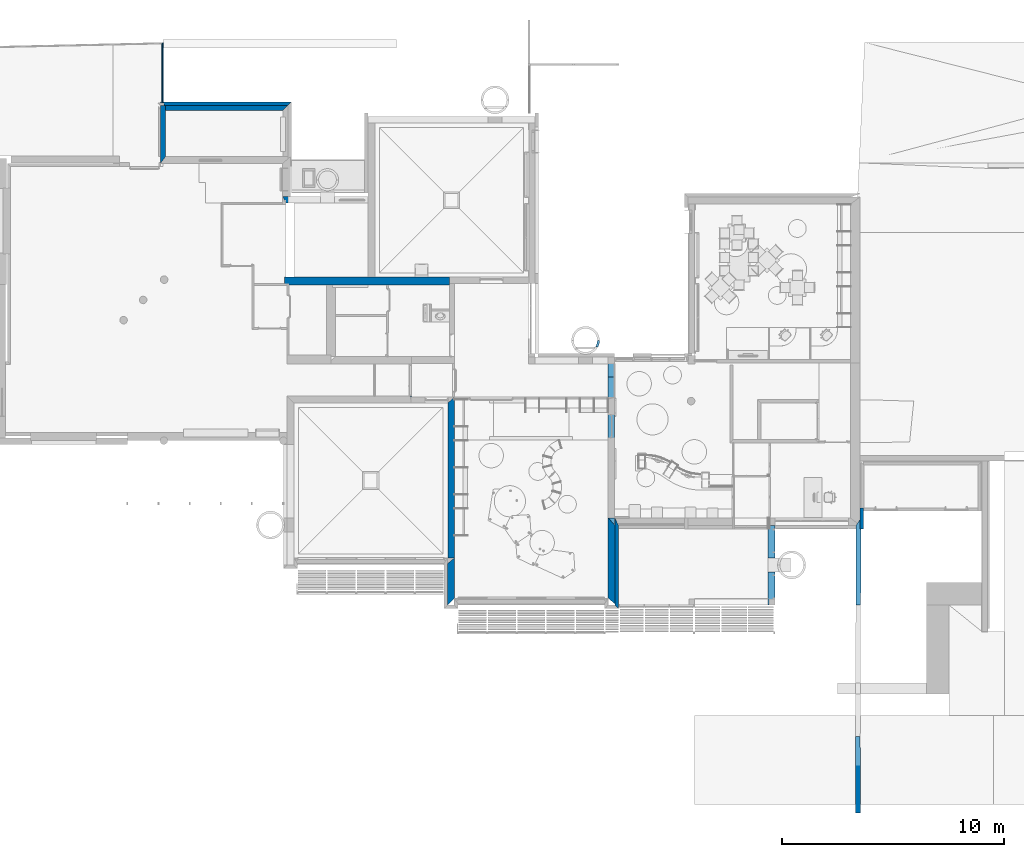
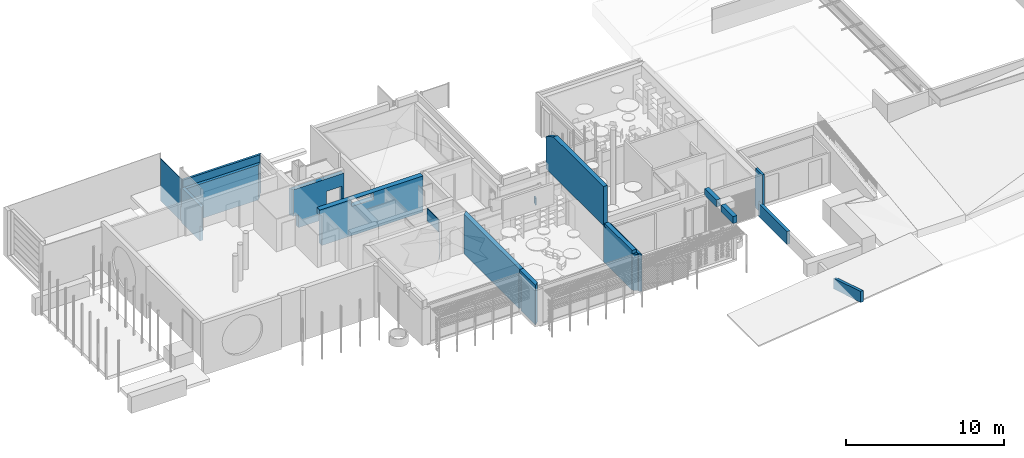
# One storey, part 28 of 64: 17 walls.
"""IFC2X3 building model written with IfcOpenShell, lengths in metres."""

from ifc_helpers import new_model, entity, si_unit, converted_unit, derived_unit, direction, frame, frame_2d, origin, place, context, subcontext, project, spatial, polyline, circle_curve, parameter, trimmed, segment, composite_curve, outline, extrude, faceted_brep, material, layer, layer_set, layer_usage, type_object, element, save


model = new_model("IFC2X3")

# Units and contexts
model_context = context("Model", 3, precision=1e-05, world=origin(), true_north=direction((6.123031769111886e-17, 1.0)))
body_context = subcontext(model_context, "Body", "Model", "MODEL_VIEW")
ifc_project = project(units=[si_unit("LENGTHUNIT", "METRE"), si_unit("AREAUNIT", "SQUARE_METRE"), si_unit("VOLUMEUNIT", "CUBIC_METRE"), converted_unit("PLANEANGLEUNIT", "DEGREE", entity("IfcRatioMeasure", 0.017453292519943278), si_unit("PLANEANGLEUNIT", "RADIAN"), dimensions=[0, 0, 0, 0, 0, 0, 0]), si_unit("MASSUNIT", "GRAM", prefix="KILO"), derived_unit("MASSDENSITYUNIT", [(si_unit("MASSUNIT", "GRAM", prefix="KILO"), 1), (si_unit("LENGTHUNIT", "METRE"), -3)]), derived_unit("MOMENTOFINERTIAUNIT", [(si_unit("LENGTHUNIT", "METRE"), 4)]), si_unit("TIMEUNIT", "SECOND"), si_unit("FREQUENCYUNIT", "HERTZ"), si_unit("THERMODYNAMICTEMPERATUREUNIT", "DEGREE_CELSIUS"), derived_unit("THERMALTRANSMITTANCEUNIT", [(si_unit("MASSUNIT", "GRAM", prefix="KILO"), 1), (si_unit("THERMODYNAMICTEMPERATUREUNIT", "KELVIN"), -1), (si_unit("TIMEUNIT", "SECOND"), -3)]), derived_unit("THERMALCONDUCTANCEUNIT", [(si_unit("MASSUNIT", "GRAM", prefix="KILO"), 1), (si_unit("LENGTHUNIT", "METRE"), 1), (si_unit("THERMODYNAMICTEMPERATUREUNIT", "KELVIN"), -1), (si_unit("TIMEUNIT", "SECOND"), -3)]), derived_unit("VOLUMETRICFLOWRATEUNIT", [(si_unit("LENGTHUNIT", "METRE"), 3), (si_unit("TIMEUNIT", "SECOND"), -1)]), derived_unit("MASSFLOWRATEUNIT", [(si_unit("MASSUNIT", "GRAM", prefix="KILO"), 1), (si_unit("TIMEUNIT", "SECOND"), -1)]), derived_unit("ROTATIONALFREQUENCYUNIT", [(si_unit("TIMEUNIT", "SECOND"), -1)]), si_unit("ELECTRICCURRENTUNIT", "AMPERE"), si_unit("ELECTRICVOLTAGEUNIT", "VOLT"), si_unit("POWERUNIT", "WATT"), si_unit("FORCEUNIT", "NEWTON", prefix="KILO"), si_unit("ILLUMINANCEUNIT", "LUX"), si_unit("LUMINOUSFLUXUNIT", "LUMEN"), si_unit("LUMINOUSINTENSITYUNIT", "CANDELA"), derived_unit("USERDEFINED", [(si_unit("MASSUNIT", "GRAM", prefix="KILO"), -1), (si_unit("LENGTHUNIT", "METRE"), -2), (si_unit("TIMEUNIT", "SECOND"), 3), (si_unit("LUMINOUSFLUXUNIT", "LUMEN"), 1)]), derived_unit("USERDEFINED", [(si_unit("MASSUNIT", "GRAM", prefix="KILO"), 1), (si_unit("LENGTHUNIT", "METRE"), 3), (si_unit("TIMEUNIT", "SECOND"), -3), (si_unit("ELECTRICCURRENTUNIT", "AMPERE"), -2)]), derived_unit("USERDEFINED", [(si_unit("LENGTHUNIT", "METRE"), 2), (si_unit("TIMEUNIT", "SECOND"), -2)]), derived_unit("SOUNDPOWERUNIT", [(si_unit("MASSUNIT", "GRAM", prefix="KILO"), 1), (si_unit("LENGTHUNIT", "METRE"), 2), (si_unit("TIMEUNIT", "SECOND"), -3)]), derived_unit("SOUNDPRESSUREUNIT", [(si_unit("MASSUNIT", "GRAM", prefix="KILO"), 1), (si_unit("LENGTHUNIT", "METRE"), -1), (si_unit("TIMEUNIT", "SECOND"), -2)]), derived_unit("LINEARVELOCITYUNIT", [(si_unit("LENGTHUNIT", "METRE"), 1), (si_unit("TIMEUNIT", "SECOND"), -1)]), si_unit("PRESSUREUNIT", "PASCAL"), derived_unit("USERDEFINED", [(si_unit("LENGTHUNIT", "METRE"), -2), (si_unit("MASSUNIT", "GRAM", prefix="KILO"), 1), (si_unit("TIMEUNIT", "SECOND"), -2)]), derived_unit("LINEARFORCEUNIT", [(si_unit("MASSUNIT", "GRAM", prefix="KILO"), 1), (si_unit("LENGTHUNIT", "METRE"), 1), (si_unit("TIMEUNIT", "SECOND"), -2), (si_unit("LENGTHUNIT", "METRE"), -1)]), derived_unit("PLANARFORCEUNIT", [(si_unit("MASSUNIT", "GRAM", prefix="KILO"), 1), (si_unit("LENGTHUNIT", "METRE"), 1), (si_unit("TIMEUNIT", "SECOND"), -2), (si_unit("LENGTHUNIT", "METRE"), -2)]), derived_unit("SPECIFICHEATCAPACITYUNIT", [(si_unit("LENGTHUNIT", "METRE"), 2), (si_unit("TIMEUNIT", "SECOND"), -2), (si_unit("THERMODYNAMICTEMPERATUREUNIT", "KELVIN"), -1)]), derived_unit("VAPORPERMEABILITYUNIT", [(si_unit("TIMEUNIT", "SECOND"), 1), (si_unit("LENGTHUNIT", "METRE"), -1)]), derived_unit("DYNAMICVISCOSITYUNIT", [(si_unit("MASSUNIT", "GRAM", prefix="KILO"), 1), (si_unit("LENGTHUNIT", "METRE"), -1), (si_unit("TIMEUNIT", "SECOND"), -1)]), derived_unit("THERMALEXPANSIONCOEFFICIENTUNIT", [(si_unit("THERMODYNAMICTEMPERATUREUNIT", "KELVIN"), -1)])], contexts=[model_context])

# Site, building, storey
site_placement = place(None, origin())
site = spatial("IfcSite", under=ifc_project, at=site_placement, Name="Default", CompositionType="ELEMENT")
building_placement = place(site_placement, origin())
building = spatial("IfcBuilding", under=site, at=building_placement, CompositionType="ELEMENT")
storey_placement = place(building_placement, origin())
storey = spatial("IfcBuildingStorey", under=building, at=storey_placement, Name="REZ-DE-CHAUSSÉE", CompositionType="ELEMENT", Elevation=0.0)

# Walls
ifc_material_1 = material(Name="Enduit - Beige nature")
wall_type_1 = type_object("IfcWallType", Name="MurExt-002", PredefinedType="NOTDEFINED", material=ifc_material_1)
wall_1_placement = place(storey_placement, frame((128.20116940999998, -5.173693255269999, -7.434767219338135e-05), z_axis=(0.0, 0.0, 1.0), x_axis=(0.0, 1.0, 0.0)))
element("IfcWall", 1, at=wall_1_placement, inside=storey, type_object=wall_type_1, material=ifc_material_1, Name="MurExt-002:MurExt-002", ObjectType="MurExt-002:MurExt-002", context=body_context, shape_type="Brep", body=[
    faceted_brep([(0.0001625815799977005, 0.0, 1.8600923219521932), (3.42095834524, -0.002527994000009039, 0.7999955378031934), (3.42095834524, -0.002527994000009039, 0.0), (0.00016258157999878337, 0.0, 1.0000743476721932), (3.4201971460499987, -0.21619033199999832, 0.8000743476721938), (3.420197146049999, -0.21619033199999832, 7.434767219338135e-05), (0.0, -0.21999994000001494, 1.0000743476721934), (0.0, -0.21999994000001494, 1.8600923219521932)], [[[0, 1, 2, 3]], [[1, 0, 4]], [[4, 5, 2, 1]], [[3, 2, 5]], [[0, 3, 6, 7]], [[0, 7, 4]], [[5, 4, 7, 6]], [[6, 3, 5]]]),
])
wall_type_2 = type_object("IfcWallType", Name="MurExt-004", PredefinedType="NOTDEFINED")
wall_2_placement = place(storey_placement, frame((117.07075228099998, 7.7472094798, 2.8), z_axis=(0.0, 0.0, 1.0), x_axis=(0.0, 1.0, 0.0)))
element("IfcWall", 2, at=wall_2_placement, inside=storey, type_object=wall_type_2, Name="MurExt-004:MurExt-004", ObjectType="MurExt-004:MurExt-004", context=body_context, shape_type="Brep", body=[
    faceted_brep([(0.3299999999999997, 0.0, 3.0200000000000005), (0.3299999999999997, -0.31000000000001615, 3.0200000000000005), (6.66258661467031, -0.31000000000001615, 3.0200000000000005), (6.662586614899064, 0.0, 3.0200000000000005), (7.560000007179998, -0.31000000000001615, 0.0), (0.0, -0.31000000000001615, 0.0), (0.0, 0.0, 0.0), (7.560000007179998, 0.0, 0.0), (7.560000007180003, -0.31000000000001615, 2.509999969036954), (0.3299999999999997, -0.31000000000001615, 0.019999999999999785), (0.0, -0.31000000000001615, 0.019999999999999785), (7.560000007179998, 0.0, 2.5099999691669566), (0.0, 0.0, 0.019999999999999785), (0.3299999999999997, 0.0, 0.019999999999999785)], [[[0, 1, 2, 3]], [[4, 5, 6, 7]], [[5, 4, 8, 2, 1, 9, 10]], [[4, 7, 11, 8]], [[7, 6, 12, 13, 0, 3, 11]], [[6, 5, 10, 12]], [[9, 13, 12, 10]], [[13, 9, 1, 0]], [[3, 2, 8, 11]]]),
])
wall_type_3 = type_object("IfcWallType", Name="MurExt-003", PredefinedType="NOTDEFINED")
wall_3_placement = place(storey_placement, frame((124.28075227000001, 4.167209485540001, 2.8), z_axis=(0.0, 0.0, 1.0), x_axis=(0.0, 1.0, 0.0)))
element("IfcWall", 3, at=wall_3_placement, inside=storey, type_object=wall_type_3, Name="MurExt-003:MurExt-003", ObjectType="MurExt-003:MurExt-003", context=body_context, shape_type="Brep", body=[
    faceted_brep([(2.1100000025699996, 0.0, 0.5400000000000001), (2.1100000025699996, -0.3000000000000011, 0.5400000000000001), (3.5799999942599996, -0.3000000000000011, 0.5400000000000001), (3.5799999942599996, 0.0, 0.5400000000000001), (2.1100000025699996, 0.0, 0.0), (3.5799999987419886, 0.0, 0.0), (2.1100000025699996, -0.3000000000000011, 0.0), (3.5799999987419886, -0.3000000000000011, 0.0)], [[[0, 1, 2, 3]], [[4, 0, 3, 5]], [[1, 0, 4, 6]], [[3, 2, 7, 5]], [[1, 6, 7, 2]], [[6, 4, 5, 7]]]),
    faceted_brep([(0.0, -0.3000000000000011, 0.0), (0.0, 0.0, 0.0), (1.4900000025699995, 0.0, 0.0), (1.4900000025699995, -0.3000000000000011, 0.0), (0.0, -0.3000000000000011, 0.5400000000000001), (0.0, 0.0, 0.5400000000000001), (1.4900000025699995, -0.3000000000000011, 0.5400000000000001), (1.4900000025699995, 0.0, 0.5400000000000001)], [[[0, 1, 2, 3]], [[4, 5, 1, 0]], [[4, 0, 3, 6]], [[7, 6, 3, 2]], [[1, 5, 7, 2]], [[5, 4, 6, 7]]]),
])
ifc_material_2 = material(Name="Appareillage - Pierre taillé")
ifc_layer_1 = layer(ifc_material_2, 0.29999999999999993)
ifc_layer_set_1 = layer_set([ifc_layer_1], Name="Mur de base:Struct. - Pierre 300")
wall_type_4 = type_object("IfcWallType", Name="Mur de base:Struct. - Pierre 300", PredefinedType="STANDARD", material=ifc_layer_set_1)
wall_4_placement = place(storey_placement, frame((117.240752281, 8.07720948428, 0.0), z_axis=(0.0, 0.0, 1.0), x_axis=(0.0, -1.0, 0.0)))
element("IfcWallStandardCase", 4, at=wall_4_placement, inside=storey, type_object=wall_type_4, Name="MurExt-003", ObjectType="Mur de base:Struct. - Pierre 300", context=body_context, shape_type="Brep", body=[
    faceted_brep([(0.0, -0.15000000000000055, 2.8199999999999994), (0.0, -0.15000000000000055, 0.0), (3.610000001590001, -0.15000000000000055, 0.0), (3.6099999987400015, -0.15000000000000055, 2.8), (3.6099999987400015, -0.15000000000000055, 3.06), (0.12500000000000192, -0.15000000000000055, 3.06), (0.12500000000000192, -0.15000000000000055, 2.8199999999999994), (0.33000000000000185, 0.15000000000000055, 0.0), (0.3300000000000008, 0.15000000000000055, 2.8199999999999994), (0.12500000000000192, 0.15000000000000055, 2.8199999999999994), (0.12500000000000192, 0.15000000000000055, 3.06), (3.6099999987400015, 0.15000000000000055, 3.06), (3.6099999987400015, 0.15000000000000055, 2.8), (3.860000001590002, 0.15000000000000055, 2.8), (3.860000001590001, 0.15000000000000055, 0.0), (0.12500000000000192, -0.0363636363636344, 2.8199999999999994), (3.6100000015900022, -0.15000000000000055, 2.8)], [[[0, 1, 2, 3, 4, 5, 6]], [[7, 8, 9, 10, 11, 12, 13, 14]], [[2, 1, 7, 14]], [[5, 4, 11, 10]], [[6, 5, 10, 9, 15]], [[6, 15, 0]], [[0, 15, 8, 7, 1]], [[12, 16, 13]], [[16, 2, 14, 13]], [[4, 3, 12, 11]], [[15, 9, 8]]]),
])
wall_5_placement = place(storey_placement, frame((110.020752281, 4.16720948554, 0.0), z_axis=(0.0, 0.0, 1.0), x_axis=(0.0, 1.0, 0.0)))
element("IfcWallStandardCase", 5, at=wall_5_placement, inside=storey, type_object=wall_type_4, Name="MurExt-004", ObjectType="Mur de base:Struct. - Pierre 300", context=body_context, shape_type="Brep", body=[
    faceted_brep([(0.30000000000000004, -0.15000000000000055, 0.0), (2.109999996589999, -0.15000000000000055, 0.0), (2.109999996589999, -0.15000000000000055, 2.8), (2.0899999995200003, -0.15000000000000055, 2.8), (2.03999999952, -0.15000000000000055, 2.8), (2.03999999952, -0.15000000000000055, 3.06), (0.30000000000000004, -0.15000000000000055, 3.06), (0.0, 0.15000000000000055, 0.0), (0.0, 0.15000000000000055, 3.06), (2.03999999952, 0.15000000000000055, 3.06), (2.03999999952, 0.15000000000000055, 2.8), (1.8599999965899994, 0.15000000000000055, 2.8), (1.8599999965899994, 0.15000000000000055, 0.0), (2.03999999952, -0.06600000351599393, 2.8)], [[[0, 1, 2, 3, 4, 5, 6]], [[7, 8, 9, 10, 11, 12]], [[1, 0, 7, 12]], [[6, 5, 9, 8]], [[0, 6, 8, 7]], [[5, 4, 13, 10, 9]], [[10, 13, 11]], [[2, 1, 12, 11, 13]], [[13, 4, 3, 2]]]),
])
wall_6_placement = place(storey_placement, frame((102.46075227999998, 22.3772094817, -1.0)))
element("IfcWallStandardCase", 6, at=wall_6_placement, inside=storey, type_object=wall_type_4, Name="MurExt-002", ObjectType="Mur de base:Struct. - Pierre 300", context=body_context, shape_type="Brep", body=[
    faceted_brep([(3.8400000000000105, -0.15000000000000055, 3.05), (0.14000000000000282, -0.15000000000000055, 3.05), (0.14000000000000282, -0.15000000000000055, 1.0), (0.5000000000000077, -0.15000000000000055, 1.0), (0.5000000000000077, -0.15000000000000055, 0.0), (2.5499999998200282, -0.15000000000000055, 0.0), (2.5499999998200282, -0.15000000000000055, 2.09), (3.679999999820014, -0.15000000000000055, 2.09), (3.679999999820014, -0.15000000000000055, 0.0), (3.8400000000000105, -0.15000000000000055, 0.0), (0.0, 0.15000000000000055, 3.05), (0.3500000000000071, 0.15000000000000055, 3.05), (3.8400000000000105, 0.15000000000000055, 3.05), (3.8400000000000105, 0.15000000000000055, 0.0), (3.679999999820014, 0.15000000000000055, 0.0), (3.679999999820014, 0.15000000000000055, 2.09), (2.5499999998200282, 0.15000000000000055, 2.09), (2.5499999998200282, 0.15000000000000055, 0.0), (0.5000000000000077, 0.15000000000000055, 0.0), (0.5000000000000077, 0.15000000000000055, 1.0), (0.0, 0.15000000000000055, 1.0), (0.5000000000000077, 0.0, 0.0), (0.5000000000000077, 0.0, 1.0), (0.07000000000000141, 0.0, 1.0)], [[[0, 1, 2, 3, 4, 5, 6, 7, 8, 9]], [[10, 11, 12, 13, 14, 15, 16, 17, 18, 19, 20]], [[4, 21, 18, 17, 5]], [[1, 0, 12, 11, 10]], [[16, 6, 5, 17]], [[6, 16, 15, 7]], [[7, 15, 14, 8]], [[9, 13, 12, 0]], [[20, 19, 22, 3, 2, 23]], [[4, 3, 22, 19, 18, 21]], [[2, 1, 10, 20, 23]], [[13, 9, 8, 14]]]),
])
ifc_material_3 = material(Name="Enduit - Jaune nature")
ifc_layer_2 = layer(ifc_material_3, 0.02)
ifc_material_4 = material(Name="Isolation - Fibre de verre")
ifc_layer_3 = layer(ifc_material_4, 0.14)
ifc_layer_set_2 = layer_set([ifc_layer_2, ifc_layer_3], Name="Mur de base:ABA ITE 140 + enduit 160")
wall_type_5 = type_object("IfcWallType", Name="Mur de base:ABA ITE 140 + enduit 160", PredefinedType="STANDARD", material=ifc_layer_set_2)
wall_7_placement = place(storey_placement, frame((128.48075228, 8.517209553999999, 0.0), z_axis=(0.0, 0.0, 1.0), x_axis=(0.0, -1.0, 0.0)))
element("IfcWallStandardCase", 7, at=wall_7_placement, inside=storey, type_object=wall_type_5, Name="MurExt-012", ObjectType="Mur de base:ABA ITE 140 + enduit 160", context=body_context, shape_type="Brep", body=[
    faceted_brep([(0.0649999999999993, -0.07999999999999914, 0.0), (0.9300000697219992, -0.07999999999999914, 0.0), (0.9300000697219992, -0.07999999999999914, 3.0399999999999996), (0.0649999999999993, -0.07999999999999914, 3.0399999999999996), (0.0649999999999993, -0.07999999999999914, 2.3999999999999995), (0.0, -0.07999999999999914, 2.3999999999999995), (0.0, -0.07999999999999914, 2.35), (0.0, -0.07999999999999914, 0.1), (0.0649999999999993, -0.07999999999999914, 0.10000000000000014), (0.0649999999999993, 0.07999999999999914, 0.0), (0.0649999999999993, 0.07999999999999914, 0.1), (0.0, 0.07999999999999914, 0.1), (0.0, 0.07999999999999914, 2.35), (0.0, 0.07999999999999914, 2.3999999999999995), (0.0649999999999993, 0.07999999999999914, 2.4), (0.0649999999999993, 0.07999999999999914, 3.0399999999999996), (0.9300000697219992, 0.07999999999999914, 3.0399999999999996), (0.9300000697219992, 0.07999999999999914, 0.0), (0.0649999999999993, -0.030000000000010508, 0.1), (0.0, -0.030000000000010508, 0.1)], [[[0, 1, 2, 3, 4, 5, 6, 7, 8]], [[9, 10, 11, 12, 13, 14, 15, 16, 17]], [[1, 0, 9, 17]], [[2, 1, 17, 16]], [[3, 2, 16, 15]], [[0, 8, 18, 10, 9]], [[7, 19, 11, 10, 18, 8]], [[4, 3, 15, 14]], [[4, 14, 13, 5]], [[5, 13, 12, 11, 19, 7, 6]]]),
])
wall_8_placement = place(storey_placement, frame((117.470752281, 8.07720948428, 0.0), z_axis=(0.0, 0.0, 1.0), x_axis=(0.0, -1.0, 0.0)))
element("IfcWallStandardCase", 8, at=wall_8_placement, inside=storey, type_object=wall_type_5, Name="MurExt-013", ObjectType="Mur de base:ABA ITE 140 + enduit 160", context=body_context, shape_type="Brep", body=[
    faceted_brep([(0.0, -0.07999999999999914, 2.8199999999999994), (0.0, -0.07999999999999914, 0.0), (3.90999999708, -0.07999999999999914, 0.0), (3.90999999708, -0.07999999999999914, 2.8999999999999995), (0.12500000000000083, -0.07999999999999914, 2.8999999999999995), (0.12500000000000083, -0.07999999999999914, 2.8199999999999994), (0.3300000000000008, 0.07999999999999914, 0.0), (0.3300000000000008, 0.07999999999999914, 2.8199999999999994), (0.12500000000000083, 0.07999999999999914, 2.8199999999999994), (0.12500000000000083, 0.07999999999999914, 2.8999999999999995), (4.06999999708, 0.07999999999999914, 2.8999999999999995), (4.06999999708, 0.07999999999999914, 0.0), (0.12500000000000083, -0.019393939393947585, 2.8199999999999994)], [[[0, 1, 2, 3, 4, 5]], [[6, 7, 8, 9, 10, 11]], [[2, 1, 6, 11]], [[4, 3, 10, 9]], [[5, 4, 9, 8, 12]], [[5, 12, 0]], [[0, 12, 7, 6, 1]], [[2, 11, 10, 3]], [[12, 8, 7]]]),
])
wall_9_placement = place(storey_placement, frame((96.9707522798, 26.6972094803, -1.0)))
element("IfcWallStandardCase", 9, at=wall_9_placement, inside=storey, type_object=wall_type_5, Name="MurExt-004", ObjectType="Mur de base:ABA ITE 140 + enduit 160", context=body_context, shape_type="Brep", body=[
    faceted_brep([(0.3000000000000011, -0.07999999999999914, 0.0), (5.720000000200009, -0.07999999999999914, 0.0), (5.720000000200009, -0.07999999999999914, 3.0699999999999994), (0.08499999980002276, -0.07999999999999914, 3.0699999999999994), (0.08499999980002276, -0.07999999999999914, 1.0), (0.10999999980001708, -0.07999999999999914, 1.0), (0.22000000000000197, -0.07999999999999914, 1.0), (0.3000000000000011, -0.07999999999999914, 1.0), (0.0, 0.07999999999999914, 0.0), (0.0, 0.07999999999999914, 1.0), (0.08499999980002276, 0.07999999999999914, 1.0), (0.08499999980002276, 0.07999999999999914, 3.0699999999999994), (5.880000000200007, 0.07999999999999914, 3.0699999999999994), (5.880000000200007, 0.07999999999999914, 0.0), (0.08499999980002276, 0.0346666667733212, 1.0)], [[[0, 1, 2, 3, 4, 5, 6, 7]], [[8, 9, 10, 11, 12, 13]], [[1, 0, 8, 13]], [[3, 2, 12, 11]], [[2, 1, 13, 12]], [[4, 14, 7, 6, 5]], [[3, 11, 10, 14, 4]], [[0, 7, 14, 9, 8]], [[14, 10, 9]]]),
])
ifc_layer_4 = layer(ifc_material_2, 0.29)
ifc_layer_set_3 = layer_set([ifc_layer_4], Name="Mur de base:Struct. - Pierre 290")
wall_type_6 = type_object("IfcWallType", Name="Mur de base:Struct. - Pierre 290", PredefinedType="STANDARD", material=ifc_layer_set_3)
wall_10_placement = place(storey_placement, frame((110.02575227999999, 13.517209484, 0.0), z_axis=(0.0, 0.0, 1.0), x_axis=(0.0, -1.0, 0.0)))
element("IfcWallStandardCase", 10, at=wall_10_placement, inside=storey, type_object=wall_type_6, Name="MurExt-007", ObjectType="Mur de base:Struct. - Pierre 290", context=body_context, shape_type="Brep", body=[
    faceted_brep([(0.2800000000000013, -0.14500000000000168, 3.06), (0.2800000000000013, -0.14500000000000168, 0.0), (7.240000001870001, -0.14500000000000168, 0.0), (7.240000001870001, -0.14500000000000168, 2.8), (7.365000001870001, -0.14500000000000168, 2.8), (7.365000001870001, -0.14500000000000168, 3.06), (0.0, 0.14500000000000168, 0.0), (0.0, 0.14500000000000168, 3.06), (7.365000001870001, 0.14500000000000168, 3.06), (7.365000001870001, 0.14500000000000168, 2.8), (7.30999999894, 0.14500000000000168, 2.8), (7.240000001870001, 0.14500000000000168, 2.8), (7.240000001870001, 0.14500000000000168, 0.0), (0.08999999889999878, 0.14500000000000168, 0.0), (0.00999999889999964, 0.14500000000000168, 0.0)], [[[0, 1, 2, 3, 4, 5]], [[6, 7, 8, 9, 10, 11, 12, 13, 14]], [[2, 1, 6, 14, 13, 12]], [[0, 5, 8, 7]], [[0, 7, 6, 1]], [[5, 4, 9, 8]], [[9, 4, 3, 11, 10]], [[3, 2, 12, 11]]]),
])
ifc_layer_5 = layer(ifc_material_2, 0.36)
ifc_layer_set_4 = layer_set([ifc_layer_5], Name="Mur de base:Struct. - Pierre 360")
wall_type_7 = type_object("IfcWallType", Name="Mur de base:Struct. - Pierre 360", PredefinedType="STANDARD", material=ifc_layer_set_4)
wall_11_placement = place(storey_placement, frame((102.39075228, 18.7172094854, 0.0)))
element("IfcWallStandardCase", 11, at=wall_11_placement, inside=storey, type_object=wall_type_7, Name="MurExt-001", ObjectType="Mur de base:Struct. - Pierre 360", context=body_context, shape_type="Brep", body=[
    faceted_brep([(2.3099999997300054, -0.18000000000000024, 2.7600000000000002), (3.9099999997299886, -0.18000000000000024, 2.7600000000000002), (3.9099999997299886, -0.18000000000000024, 2.2600000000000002), (2.3099999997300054, -0.18000000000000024, 2.2600000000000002), (0.15000000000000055, -0.18000000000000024, 0.0), (2.029999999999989, -0.18000000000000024, 0.0), (2.4499999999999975, -0.18000000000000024, 0.0), (4.739999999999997, -0.18000000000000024, 0.0), (4.819999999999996, -0.18000000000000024, 0.0), (7.559999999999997, -0.18000000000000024, 0.0), (7.559999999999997, -0.18000000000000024, 2.8), (0.0, -0.18000000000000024, 2.8), (0.0, -0.18000000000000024, 2.34), (0.15000000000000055, -0.18000000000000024, 2.34), (3.9099999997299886, 0.18000000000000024, 2.7600000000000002), (2.3099999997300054, 0.18000000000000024, 2.7600000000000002), (2.3099999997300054, 0.18000000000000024, 2.2600000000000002), (3.9099999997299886, 0.18000000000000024, 2.2600000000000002), (7.559999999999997, 0.18000000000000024, 0.0), (4.2099999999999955, 0.18000000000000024, 0.0), (3.909999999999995, 0.18000000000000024, 0.0), (0.15000000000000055, 0.18000000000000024, 0.0), (0.15000000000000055, 0.18000000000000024, 2.34), (0.0, 0.18000000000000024, 2.34), (0.0, 0.18000000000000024, 2.8), (7.559999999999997, 0.18000000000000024, 2.8), (7.559999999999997, -0.11000000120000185, 0.0)], [[[0, 1, 2, 3], [4, 5, 6, 7, 8, 9, 10, 11, 12, 13]], [[14, 15, 16, 17], [18, 19, 20, 21, 22, 23, 24, 25]], [[9, 8, 7, 6, 5, 4, 21, 20, 19, 18, 26]], [[11, 10, 25, 24]], [[0, 15, 14, 1]], [[1, 14, 17, 2]], [[2, 17, 16, 3]], [[15, 0, 3, 16]], [[21, 4, 13, 22]], [[23, 22, 13, 12]], [[23, 12, 11, 24]], [[10, 9, 26, 18, 25]]], outer=[[False, True], [False, True], [True], [True], [True], [True], [True], [True], [True], [True], [True], [True]]),
])
ifc_layer_6 = layer(ifc_material_2, 0.22)
ifc_layer_set_5 = layer_set([ifc_layer_6], Name="Mur de base:Struct. - Pierre 220")
wall_type_8 = type_object("IfcWallType", Name="Mur de base:Struct. - Pierre 220", PredefinedType="STANDARD", material=ifc_layer_set_5)
wall_12_placement = place(storey_placement, frame((97.08075227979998, 24.0172094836, -1.1999999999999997), z_axis=(0.0, 0.0, 1.0), x_axis=(0.0, 1.0, 0.0)))
element("IfcWallStandardCase", 12, at=wall_12_placement, inside=storey, type_object=wall_type_8, Name="MurExt-010", ObjectType="Mur de base:Struct. - Pierre 220", context=body_context, shape_type="Brep", body=[
    faceted_brep([(0.3000000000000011, -0.11000000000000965, 0.0), (2.3799999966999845, -0.11000000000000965, 0.0), (2.37999999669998, -0.11000000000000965, 0.19999999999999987), (2.599999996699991, -0.11000000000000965, 0.19999999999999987), (2.599999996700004, -0.11000000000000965, 1.1999999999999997), (2.599999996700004, -0.11000000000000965, 2.7), (2.379999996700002, -0.11000000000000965, 2.7), (0.3000000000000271, -0.11000000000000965, 2.7), (0.3000000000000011, -0.11000000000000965, 1.1999999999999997), (0.3000000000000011, 0.10999999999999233, 0.0), (0.3000000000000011, 0.10999999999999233, 1.1999999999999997), (0.039999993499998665, 0.10999999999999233, 1.1999999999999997), (0.0, 0.10999999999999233, 1.1999999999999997), (0.0, 0.10999999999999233, 2.7), (0.039999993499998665, 0.10999999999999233, 2.7), (0.3199999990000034, 0.10999999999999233, 2.7), (2.3999999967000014, 0.10999999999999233, 2.7), (2.599999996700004, 0.10999999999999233, 2.7), (2.599999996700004, 0.10999999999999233, 1.1999999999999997), (2.759999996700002, 0.10999999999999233, 1.1999999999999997), (2.759999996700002, 0.10999999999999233, 0.19999999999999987), (2.599999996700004, 0.10999999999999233, 0.19999999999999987), (2.599999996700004, 0.10999999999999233, 0.0), (2.599999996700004, 0.025000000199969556, 2.7), (2.599999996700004, 0.025000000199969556, 1.1999999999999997), (2.599999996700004, -0.04000000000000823, 1.1999999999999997)], [[[0, 1, 2, 3, 4, 5, 6, 7, 8]], [[9, 10, 11, 12, 13, 14, 15, 16, 17, 18, 19, 20, 21, 22]], [[1, 0, 9, 22]], [[7, 6, 5, 23, 17, 16, 15, 14, 13]], [[8, 12, 11, 10]], [[0, 8, 10, 9]], [[8, 7, 13, 12]], [[20, 3, 2, 21]], [[18, 24, 25, 4, 19]], [[2, 1, 22, 21]], [[4, 3, 20, 19]], [[5, 4, 25, 24, 18, 17, 23]]]),
])
wall_13_placement = place(storey_placement, frame((97.1907522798, 26.5072094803, -1.1999999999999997)))
element("IfcWallStandardCase", 13, at=wall_13_placement, inside=storey, type_object=wall_type_8, Name="MurExt-011", ObjectType="Mur de base:Struct. - Pierre 220", context=body_context, shape_type="Brep", body=[
    faceted_brep([(0.07999999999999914, -0.11000000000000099, 1.1999999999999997), (0.07999999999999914, -0.11000000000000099, 0.0), (5.2800000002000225, -0.11000000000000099, 0.0), (5.2800000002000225, -0.11000000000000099, 2.7), (0.0, -0.11000000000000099, 2.7), (0.0, -0.11000000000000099, 1.1999999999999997), (0.07999999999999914, 0.11000000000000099, 0.0), (0.07999999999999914, 0.11000000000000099, 1.1999999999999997), (0.0, 0.11000000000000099, 1.1999999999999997), (0.0, 0.11000000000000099, 2.7), (5.500000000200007, 0.11000000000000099, 2.7), (5.500000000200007, 0.11000000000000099, 0.0)], [[[0, 1, 2, 3, 4, 5]], [[6, 7, 8, 9, 10, 11]], [[2, 1, 6, 11]], [[4, 3, 10, 9]], [[3, 2, 11, 10]], [[5, 8, 7, 0]], [[0, 7, 6, 1]], [[5, 4, 9, 8]]]),
])
wall_14_placement = place(storey_placement, frame((128.32845097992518, 4.1668175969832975, -0.2), z_axis=(0.0, 0.0, 1.0), x_axis=(0.003562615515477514, 0.9999936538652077, 0.0)))
element("IfcWallStandardCase", 14, at=wall_14_placement, inside=storey, type_object=wall_type_8, Name="MurExt-002", ObjectType="Mur de base:Struct. - Pierre 220", context=body_context, shape_type="Brep", body=[
    faceted_brep([(0.0, -0.10999999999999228, 0.0), (3.8808084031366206, -0.1100000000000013, 0.0), (3.880808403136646, -0.11000000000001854, 0.2), (3.9108085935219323, -0.10999999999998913, 0.2), (3.9108085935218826, -0.10999999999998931, 1.0), (0.0, -0.10999999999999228, 1.0), (0.0, 0.11000000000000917, 0.0), (0.0, 0.11000000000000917, 1.0), (3.5800227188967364, 0.1100000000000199, 1.0), (3.5800227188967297, 0.11000000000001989, 0.2), (3.5800227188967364, 0.1100000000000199, 0.0)], [[[0, 1, 2, 3, 4, 5]], [[6, 7, 8, 9, 10]], [[1, 0, 6, 10]], [[5, 4, 8, 7]], [[0, 5, 7, 6]], [[9, 3, 2]], [[2, 1, 10, 9]], [[4, 3, 9, 8]]]),
])
ifc_material_5 = material(Name="Métal - Fer")
ifc_layer_7 = layer(ifc_material_5, 0.05)
ifc_layer_set_6 = layer_set([ifc_layer_7], Name="Mur de base:Métal - Fer 50")
wall_type_9 = type_object("IfcWallType", Name="Mur de base:Métal - Fer 50", PredefinedType="STANDARD", material=ifc_layer_set_6)
wall_15_placement = place(storey_placement, frame((97.05575227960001, 29.44402487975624, -1.1999999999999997), z_axis=(0.0, 0.0, 1.0), x_axis=(0.0, -1.0, 0.0)))
element("IfcWallStandardCase", 15, at=wall_15_placement, inside=storey, type_object=wall_type_9, Name="MurExt-014", ObjectType="Mur de base:Métal - Fer 50", context=body_context, shape_type="Brep", body=[
    faceted_brep([(0.051139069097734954, -0.02500000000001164, 0.0), (2.826815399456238, -0.02500000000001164, 0.0), (2.826815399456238, -0.02500000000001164, 1.1999999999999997), (2.726815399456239, -0.02500000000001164, 1.1999999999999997), (2.726815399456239, -0.02500000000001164, 3.27), (0.051139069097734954, -0.02500000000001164, 3.27), (0.0, 0.02499999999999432, 0.0), (0.0, 0.02499999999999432, 3.27), (2.726815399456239, 0.02499999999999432, 3.27), (2.726815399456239, 0.02499999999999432, 1.1999999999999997), (2.826815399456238, 0.02499999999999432, 1.1999999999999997), (2.826815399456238, 0.02499999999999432, 0.0), (2.826815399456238, 0.0, 1.1999999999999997)], [[[0, 1, 2, 3, 4, 5]], [[6, 7, 8, 9, 10, 11]], [[1, 0, 6, 11]], [[5, 4, 8, 7]], [[0, 5, 7, 6]], [[9, 3, 2, 12, 10]], [[1, 11, 10, 12, 2]], [[3, 9, 8, 4]]]),
])
ifc_layer_8 = layer(ifc_material_2, 0.1)
ifc_layer_set_7 = layer_set([ifc_layer_8], Name="Mur de base:Struct. - Pierre 100")
ifc_layer_usage = layer_usage(ifc_layer_set_7, "AXIS2", "POSITIVE", -0.05)
wall_type_10 = type_object("IfcWallType", Name="Mur de base:Struct. - Pierre 100", PredefinedType="STANDARD", material=ifc_layer_set_7)
wall_16_placement = place(storey_placement, frame((116.65075227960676, 16.05720943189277, -0.1), z_axis=(0.0, 0.0, 1.0), x_axis=(0.7853534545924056, -0.6190476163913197, 0.0)))
element("IfcWallStandardCase", 16, at=wall_16_placement, inside=storey, type_object=wall_type_10, material=ifc_layer_usage, Name="MurExt-004", ObjectType="Mur de base:Struct. - Pierre 100", context=body_context, shape_type="SweptSolid", body=[
    extrude(outline(composite_curve([segment(trimmed(circle_curve(frame_2d((-0.45550503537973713, -0.359047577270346), x_axis=(1.0, 0.0)), 0.63), [parameter(10.8390253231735)], [parameter(38.24661462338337)], True, "PARAMETER"), True, "CONTINUOUS"), segment(polyline([(0.03926767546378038, 0.03095237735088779), (-0.03926767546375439, -0.030952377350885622)]), True, "CONTINUOUS"), segment(trimmed(circle_curve(frame_2d((-0.45550503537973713, -0.359047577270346), x_axis=(1.0, 0.0)), 0.53), [parameter(5.0735538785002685)], [parameter(38.24661462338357)], True, "PARAMETER"), False, "CONTINUOUS"), segment(polyline([(0.07241841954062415, -0.3121772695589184), (0.1632553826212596, -0.24057587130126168)]), True, "CONTINUOUS")], self_intersect=False)), origin(), (0.0, 0.0, 1.0), 0.49999999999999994),
])
ifc_layer_9 = layer(ifc_material_2, 0.05)
ifc_layer_set_8 = layer_set([ifc_layer_9], Name="Mur de base:Struct. - Pierre 50")
wall_type_11 = type_object("IfcWallType", Name="Mur de base:Struct. - Pierre 50", PredefinedType="STANDARD", material=ifc_layer_set_8)
wall_17_placement = place(storey_placement, frame((108.21575227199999, 14.987209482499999, 0.0), z_axis=(0.0, 0.0, 1.0), x_axis=(0.0, -1.0, 0.0)))
element("IfcWallStandardCase", 17, at=wall_17_placement, inside=storey, type_object=wall_type_11, Name="MurExt-004", ObjectType="Mur de base:Struct. - Pierre 50", context=body_context, shape_type="Brep", body=[
    faceted_brep([(1.4399999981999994, -0.02500000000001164, 3.06), (0.0, -0.02500000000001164, 3.06), (0.0, -0.02500000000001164, 2.09), (1.4399999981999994, -0.02500000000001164, 2.09), (1.4699999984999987, 0.02499999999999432, 3.06), (1.4699999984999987, 0.02499999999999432, 0.0), (1.4399999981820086, 0.02499999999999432, 0.0), (1.4399999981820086, 0.02499999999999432, 2.09), (0.0, 0.02499999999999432, 2.09), (0.0, 0.02499999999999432, 3.06), (1.4699999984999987, 0.0, 0.0), (1.4399999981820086, 0.0, 0.0), (1.4399999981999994, 0.0, 3.06), (1.4699999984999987, 0.0, 3.06), (1.4399999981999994, 0.0, 2.09)], [[[0, 1, 2, 3]], [[4, 5, 6, 7, 8, 9]], [[5, 10, 11, 6]], [[1, 0, 12, 13, 4, 9]], [[14, 7, 6, 11]], [[7, 14, 3, 2, 8]], [[12, 0, 3, 14]], [[1, 9, 8, 2]], [[11, 10, 13, 12, 14]], [[5, 4, 13, 10]]]),
])

save(model, "model.ifc")
